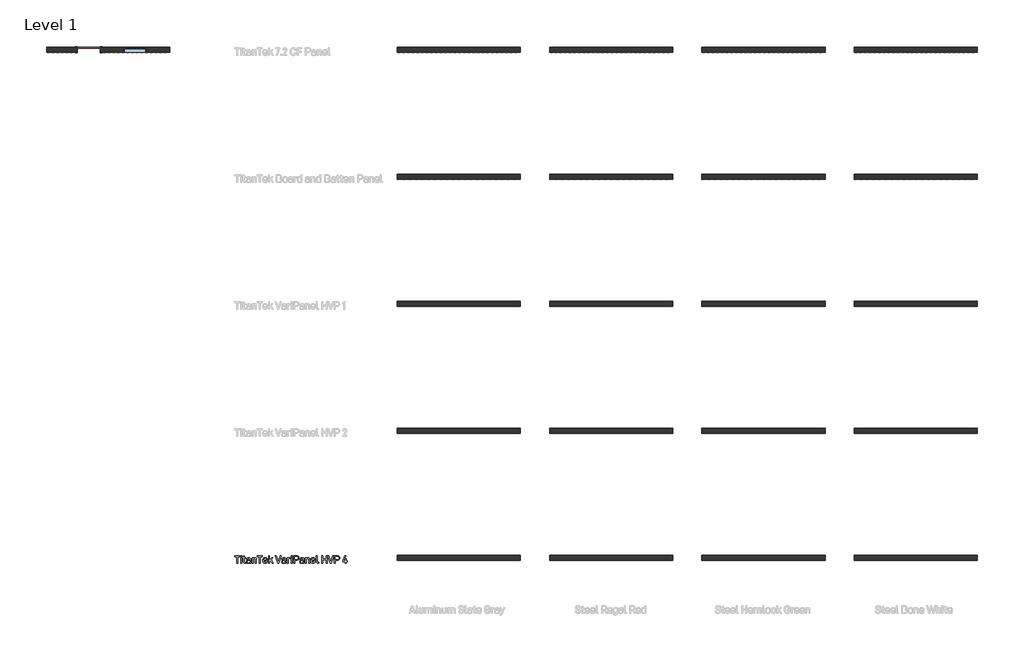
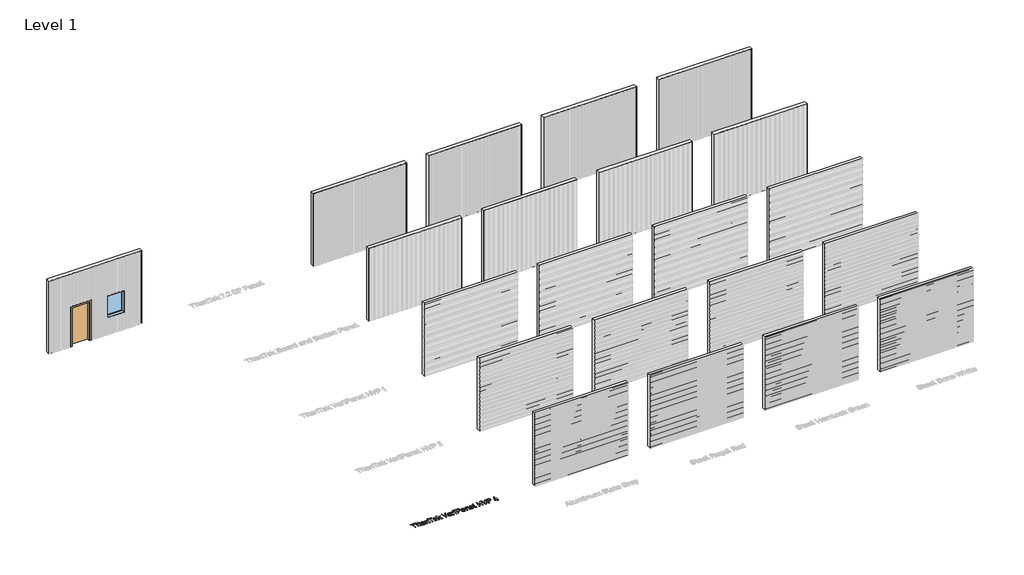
# One storey, part 1 of 9: 21 walls, 1 door, 1 proxy, 1 window.
"""IFC4 building model written with IfcOpenShell, lengths in millimetres."""

from ifc_helpers import new_model, si_unit, frame, origin, origin_with_axes, place, context, project, spatial, polyline, outline, extrude, transform, mapped, element, save
from components import m_single_flush_0915_x_2134mm_6a9e8738, m_fixed_0915_x_1220mm_488fb2fb

model = new_model("IFC4")

# Units and contexts
model_context = context("Model", 3, world=origin())
ifc_project = project(units=[si_unit("LENGTHUNIT", "METRE", prefix="MILLI")], contexts=[model_context])

# Site, building, storey
site = spatial("IfcSite", under=ifc_project)
building = spatial("IfcBuilding", under=site)
storey = spatial("IfcBuildingStorey", under=building, Name="Level 1", Elevation=0.0)

# Proxy
placement = place(None, origin())
element("IfcBuildingElementProxy", 1, Name="600mm Arial 2", ObjectType="600mm Arial 2", at=placement, inside=storey, context=model_context, shape_type="SweptSolid", body=[
    extrude(outline(polyline([(-8638.9924556, -17779.5871657), (-8638.9924556, -18047.0126498), (-8678.4439015, -18047.0126498), (-8678.4439015, -17779.5871657), (-8762.8787304, -17779.5871657), (-8762.8787304, -17742.6833224), (-8554.5576267, -17742.6833224), (-8554.5576267, -17779.5871657), (-8638.9924556, -17779.5871657)])), origin_with_axes(), (0.0, 0.0, 1.0), 5.0),
    extrude(outline(polyline([(-8487.1553408, -17746.9778525), (-8487.1553408, -17794.1448949), (-8526.6067867, -17794.1448949), (-8526.6067867, -17746.9778525), (-8487.1553408, -17746.9778525)])), origin_with_axes(), (0.0, 0.0, 1.0), 5.0),
    extrude(outline(polyline([(-8488.0288046, -17821.1494824), (-8488.0288046, -18047.0126498), (-8525.733323, -18047.0126498), (-8525.733323, -17821.1494824), (-8488.0288046, -17821.1494824)])), origin_with_axes(), (0.0, 0.0, 1.0), 5.0),
    extrude(outline(polyline([(-8372.294858, -17987.398749), (-8370.8208879, -17998.4808203), (-8366.3989777, -18006.3965855), (-8359.0291273, -18011.1460446), (-8348.7113368, -18012.7291977), (-8327.2386864, -18012.7291977), (-8327.2386864, -18047.0126498), (-8353.3698101, -18047.0126498), (-8377.1535001, -18043.0456686), (-8395.3688587, -18031.144725), (-8406.6692959, -18012.6018175), (-8410.4361083, -17988.7089446), (-8410.4361083, -17852.8853319), (-8444.2828285, -17852.8853319), (-8444.2828285, -17821.1494824), (-8410.4361083, -17821.1494824), (-8410.4361083, -17773.1089763), (-8372.294858, -17755.1301808), (-8372.294858, -17821.1494824), (-8323.3808881, -17821.1494824), (-8323.3808881, -17852.8853319), (-8372.294858, -17852.8853319), (-8372.294858, -17987.398749)])), origin_with_axes(), (0.0, 0.0, 1.0), 5.0),
    extrude(outline(polyline([(-8146.8684225, -17837.8908709), (-8137.2830677, -17848.6590411), (-8130.4363858, -17861.7473495), (-8124.9590402, -17894.8843804), (-8124.9590402, -18047.0126498), (-8162.2996154, -18047.0126498), (-8162.2996154, -18030.7079931), (-8180.7151427, -18043.1548515), (-8197.7476858, -18047.9589022), (-8217.9829293, -18049.5602524), (-8250.0281305, -18045.2839194), (-8274.1029751, -18032.4549206), (-8289.2248162, -18010.6729184), (-8294.2654299, -17981.4300801), (-8289.1338304, -17953.7885919), (-8273.7390318, -17932.5888988), (-8249.063681, -17919.3777597), (-8217.1094655, -17914.9740466), (-8162.7363472, -17914.9740466), (-8162.7363472, -17894.4476485), (-8165.6296959, -17875.558995), (-8174.3097419, -17861.8383353), (-8188.2305704, -17853.8133871), (-8207.7197302, -17851.1384044), (-8226.2262434, -17853.3948524), (-8239.819523, -17860.1641964), (-8248.1720201, -17870.5183813), (-8250.9561857, -17884.5483927), (-8250.9561857, -17890.1531184), (-8287.8600291, -17890.1531184), (-8287.8600291, -17883.7477176), (-8282.4008807, -17856.7067358), (-8266.0234354, -17835.7072115), (-8240.8203668, -17822.5506638), (-8208.1564621, -17818.1651479), (-8172.6719974, -17823.0965787), (-8158.5600987, -17829.2608671), (-8146.8684225, -17837.8908709)]), holes=[polyline([(-8174.6736851, -18005.4503331), (-8165.7206817, -17990.5468579), (-8162.7363472, -17968.9832216), (-8162.7363472, -17945.0357572), (-8212.8149354, -17945.0357572), (-8231.9538, -17947.2831067), (-8245.6244175, -17954.025155), (-8253.826788, -17965.2619021), (-8256.5609115, -17980.9933482), (-8253.8540837, -17996.9477094), (-8245.7336004, -18008.3436818), (-8232.1994616, -18015.1812652), (-8213.2516673, -18017.4604596), (-8190.104878, -18014.457928), (-8174.6736851, -18005.4503331)])]), origin_with_axes(), (0.0, 0.0, 1.0), 5.0),
    extrude(outline(polyline([(-8030.6977441, -17821.1494824), (-8030.6977441, -17839.5650097), (-8012.2822167, -17826.3174762), (-7995.1222935, -17820.5307789), (-7976.2518372, -17818.6018798), (-7943.9154813, -17824.0610282), (-7930.7907787, -17830.8849637), (-7919.6950595, -17840.4384735), (-7911.0650557, -17852.0209667), (-7904.9007673, -17865.8053165), (-7899.9693365, -17899.9795856), (-7899.9693365, -18047.0126498), (-7937.673855, -18047.0126498), (-7937.673855, -17904.2741157), (-7940.6763866, -17881.8916072), (-7949.6839815, -17866.1328654), (-7964.3781893, -17856.5247642), (-7983.567096, -17853.3220637), (-8002.7378056, -17856.5247642), (-8017.3774219, -17866.1328654), (-8027.0401146, -17882.546705), (-8030.2610122, -17904.2741157), (-8030.2610122, -18047.0126498), (-8067.9655306, -18047.0126498), (-8067.9655306, -17821.1494824), (-8030.6977441, -17821.1494824)])), origin_with_axes(), (0.0, 0.0, 1.0), 5.0),
    extrude(outline(polyline([(-7749.2240514, -17779.5871657), (-7749.2240514, -18047.0126498), (-7788.6754974, -18047.0126498), (-7788.6754974, -17779.5871657), (-7873.1103263, -17779.5871657), (-7873.1103263, -17742.6833224), (-7664.7892225, -17742.6833224), (-7664.7892225, -17779.5871657), (-7749.2240514, -17779.5871657)])), origin_with_axes(), (0.0, 0.0, 1.0), 5.0),
    extrude(outline(polyline([(-7608.5235994, -17952.7513537), (-7605.1025331, -17982.1670651), (-7594.8393341, -18001.1194087), (-7578.3527058, -18011.4099035), (-7556.2613519, -18014.8400684), (-7536.990558, -18012.2742686), (-7522.8513635, -18004.5768694), (-7514.1713175, -17992.8033059), (-7511.2779689, -17977.13555), (-7511.2779689, -17971.6036129), (-7474.3741256, -17971.6036129), (-7474.3741256, -17978.0090137), (-7480.0516399, -18007.1608663), (-7487.1485329, -18019.471246), (-7497.084183, -18030.2712613), (-7523.7976159, -18044.7380046), (-7558.3722226, -18049.5602524), (-7577.3222916, -18048.0612612), (-7594.2843206, -18043.5642877), (-7609.2583098, -18036.0693318), (-7622.2442591, -18025.5763936), (-7632.7371973, -18011.9762901), (-7640.2321532, -17995.1598383), (-7644.7291267, -17975.1270383), (-7646.2281179, -17951.8778899), (-7646.2281179, -17914.1733715), (-7644.7314014, -17891.4678633), (-7640.2412518, -17871.8285769), (-7632.7576691, -17855.2555121), (-7622.2806535, -17841.7486691), (-7609.4971476, -17831.4308786), (-7594.7301511, -17824.0610282), (-7577.979664, -17819.639118), (-7559.2456864, -17818.1651479), (-7540.8438069, -17819.639118), (-7524.2161506, -17824.0610282), (-7509.3627176, -17831.4308786), (-7496.2835079, -17841.7486691), (-7485.9657174, -17855.0917377), (-7478.595867, -17871.610211), (-7474.1739568, -17891.3040889), (-7472.6999867, -17914.1733715), (-7472.6999867, -17944.1622935), (-7608.5235994, -17944.1622935), (-7608.5235994, -17952.7513537)]), holes=[polyline([(-7595.2760659, -17866.5695973), (-7605.2117161, -17884.69397), (-7608.5235994, -17913.2999077), (-7510.4045051, -17913.7366396), (-7510.4045051, -17910.3155733), (-7513.6254027, -17883.0744226), (-7523.2880954, -17865.6961335), (-7538.9012599, -17856.4155812), (-7559.2456864, -17853.3220637), (-7579.60831, -17856.6339471), (-7595.2760659, -17866.5695973)])]), origin_with_axes(), (0.0, 0.0, 1.0), 5.0),
    extrude(outline(polyline([(-7387.391694, -17979.6831526), (-7387.391694, -18047.0126498), (-7425.0962125, -18047.0126498), (-7425.0962125, -17742.6833224), (-7387.391694, -17742.6833224), (-7387.391694, -17929.1678325), (-7299.0990669, -17821.1494824), (-7252.3687564, -17821.1494824), (-7326.5403863, -17908.1319139), (-7241.6688255, -18047.0126498), (-7287.5256722, -18047.0126498), (-7351.7980463, -17937.3201608), (-7387.391694, -17979.6831526)])), origin_with_axes(), (0.0, 0.0, 1.0), 5.0),
    extrude(outline(polyline([(-6964.5624516, -17742.6833224), (-6923.0001349, -17742.6833224), (-7022.4294248, -18047.0126498), (-7054.1652743, -18047.0126498), (-7153.1578324, -17742.6833224), (-7111.5955157, -17742.6833224), (-7037.8606177, -17977.13555), (-6964.5624516, -17742.6833224)])), origin_with_axes(), (0.0, 0.0, 1.0), 5.0),
    extrude(outline(polyline([(-6763.3018464, -17837.8908709), (-6753.7164916, -17848.6590411), (-6746.8698097, -17861.7473495), (-6741.3924641, -17894.8843804), (-6741.3924641, -18047.0126498), (-6778.7330393, -18047.0126498), (-6778.7330393, -18030.7079931), (-6797.1485666, -18043.1548515), (-6814.1811097, -18047.9589022), (-6834.4163532, -18049.5602524), (-6866.4615544, -18045.2839194), (-6890.536399, -18032.4549206), (-6905.6582401, -18010.6729184), (-6910.6988538, -17981.4300801), (-6905.5672543, -17953.7885919), (-6890.1724557, -17932.5888988), (-6865.4971049, -17919.3777597), (-6833.5428894, -17914.9740466), (-6779.1697712, -17914.9740466), (-6779.1697712, -17894.4476485), (-6782.0631198, -17875.558995), (-6790.7431658, -17861.8383353), (-6804.6639943, -17853.8133871), (-6824.1531542, -17851.1384044), (-6842.6596673, -17853.3948524), (-6856.2529469, -17860.1641964), (-6864.605444, -17870.5183813), (-6867.3896097, -17884.5483927), (-6867.3896097, -17890.1531184), (-6904.293453, -17890.1531184), (-6904.293453, -17883.7477176), (-6898.8343046, -17856.7067358), (-6882.4568593, -17835.7072115), (-6857.2537908, -17822.5506638), (-6824.589886, -17818.1651479), (-6789.1054213, -17823.0965787), (-6774.9935226, -17829.2608671), (-6763.3018464, -17837.8908709)]), holes=[polyline([(-6791.107109, -18005.4503331), (-6782.1541056, -17990.5468579), (-6779.1697712, -17968.9832216), (-6779.1697712, -17945.0357572), (-6829.2483594, -17945.0357572), (-6848.3872239, -17947.2831067), (-6862.0578414, -17954.025155), (-6870.2602119, -17965.2619021), (-6872.9943354, -17980.9933482), (-6870.2875076, -17996.9477094), (-6862.1670243, -18008.3436818), (-6848.6328855, -18015.1812652), (-6829.6850912, -18017.4604596), (-6806.5383019, -18014.457928), (-6791.107109, -18005.4503331)])]), origin_with_axes(), (0.0, 0.0, 1.0), 5.0),
    extrude(outline(polyline([(-6594.4321886, -17818.1651479), (-6574.2697337, -17820.2760186), (-6574.2697337, -17859.2907327), (-6600.8375894, -17853.686007), (-6619.1712295, -17857.2253549), (-6633.8472402, -17867.8433985), (-6643.4826371, -17884.2481396), (-6646.6944361, -17905.1475794), (-6646.6944361, -18047.0126498), (-6684.3989546, -18047.0126498), (-6684.3989546, -17821.1494824), (-6647.131168, -17821.1494824), (-6647.131168, -17840.8752053), (-6629.5891044, -17826.6814194), (-6613.4846166, -17820.2942158), (-6594.4321886, -17818.1651479)])), origin_with_axes(), (0.0, 0.0, 1.0), 5.0),
    extrude(outline(polyline([(-6497.9872331, -17746.9778525), (-6497.9872331, -17794.1448949), (-6537.438679, -17794.1448949), (-6537.438679, -17746.9778525), (-6497.9872331, -17746.9778525)])), origin_with_axes(), (0.0, 0.0, 1.0), 5.0),
    extrude(outline(polyline([(-6498.8606969, -17821.1494824), (-6498.8606969, -18047.0126498), (-6536.5652153, -18047.0126498), (-6536.5652153, -17821.1494824), (-6498.8606969, -17821.1494824)])), origin_with_axes(), (0.0, 0.0, 1.0), 5.0),
    extrude(outline(polyline([(-6253.6357497, -17766.7035755), (-6242.2033831, -17780.1603763), (-6234.0374069, -17796.073794), (-6229.1378212, -17814.4438284), (-6227.504626, -17835.2704796), (-6229.1651169, -17854.955259), (-6234.1465899, -17872.4472804), (-6242.4490448, -17887.7465438), (-6254.0724816, -17900.8530493), (-6268.1297888, -17911.3619101), (-6284.6073184, -17918.8682391), (-6303.5050706, -17923.3720366), (-6324.8230452, -17924.8733024), (-6395.5008201, -17924.8733024), (-6395.5008201, -18047.0126498), (-6435.3889979, -18047.0126498), (-6435.3889979, -17742.6833224), (-6324.8230452, -17742.6833224), (-6303.6415493, -17744.1845882), (-6284.7165014, -17748.6883857), (-6268.0479016, -17756.1947147), (-6253.6357497, -17766.7035755)]), holes=[polyline([(-6282.3872648, -17874.7219256), (-6271.141419, -17858.4172689), (-6267.3928038, -17835.2704796), (-6271.250602, -17810.6497202), (-6282.8239966, -17793.2714311), (-6301.8946218, -17783.0082321), (-6327.3706478, -17779.5871657), (-6395.5008201, -17779.5871657), (-6395.5008201, -17887.9694591), (-6327.3706478, -17887.9694591), (-6301.130341, -17884.6575757), (-6282.3872648, -17874.7219256)])]), origin_with_axes(), (0.0, 0.0, 1.0), 5.0),
    extrude(outline(polyline([(-6055.2139018, -17837.8908709), (-6045.628547, -17848.6590411), (-6038.781865, -17861.7473495), (-6033.3045194, -17894.8843804), (-6033.3045194, -18047.0126498), (-6070.6450946, -18047.0126498), (-6070.6450946, -18030.7079931), (-6089.060622, -18043.1548515), (-6106.093165, -18047.9589022), (-6126.3284085, -18049.5602524), (-6158.3736098, -18045.2839194), (-6182.4484543, -18032.4549206), (-6197.5702954, -18010.6729184), (-6202.6109091, -17981.4300801), (-6197.4793096, -17953.7885919), (-6182.0845111, -17932.5888988), (-6157.4091602, -17919.3777597), (-6125.4549448, -17914.9740466), (-6071.0818265, -17914.9740466), (-6071.0818265, -17894.4476485), (-6073.9751752, -17875.558995), (-6082.6552212, -17861.8383353), (-6096.5760496, -17853.8133871), (-6116.0652095, -17851.1384044), (-6134.5717226, -17853.3948524), (-6148.1650022, -17860.1641964), (-6156.5174993, -17870.5183813), (-6159.301665, -17884.5483927), (-6159.301665, -17890.1531184), (-6196.2055083, -17890.1531184), (-6196.2055083, -17883.7477176), (-6190.7463599, -17856.7067358), (-6174.3689146, -17835.7072115), (-6149.1658461, -17822.5506638), (-6116.5019414, -17818.1651479), (-6081.0174766, -17823.0965787), (-6066.905578, -17829.2608671), (-6055.2139018, -17837.8908709)]), holes=[polyline([(-6083.0191644, -18005.4503331), (-6074.066161, -17990.5468579), (-6071.0818265, -17968.9832216), (-6071.0818265, -17945.0357572), (-6121.1604147, -17945.0357572), (-6140.2992792, -17947.2831067), (-6153.9698967, -17954.025155), (-6162.1722672, -17965.2619021), (-6164.9063907, -17980.9933482), (-6162.199563, -17996.9477094), (-6154.0790797, -18008.3436818), (-6140.5449409, -18015.1812652), (-6121.5971466, -18017.4604596), (-6098.4503573, -18014.457928), (-6083.0191644, -18005.4503331)])]), origin_with_axes(), (0.0, 0.0, 1.0), 5.0),
    extrude(outline(polyline([(-5939.0432233, -17821.1494824), (-5939.0432233, -17839.5650097), (-5920.627696, -17826.3174762), (-5903.4677728, -17820.5307789), (-5884.5973164, -17818.6018798), (-5852.2609606, -17824.0610282), (-5839.1362579, -17830.8849637), (-5828.0405387, -17840.4384735), (-5819.410535, -17852.0209667), (-5813.2462465, -17865.8053165), (-5808.3148158, -17899.9795856), (-5808.3148158, -18047.0126498), (-5846.0193342, -18047.0126498), (-5846.0193342, -17904.2741157), (-5849.0218659, -17881.8916072), (-5858.0294607, -17866.1328654), (-5872.7236686, -17856.5247642), (-5891.9125753, -17853.3220637), (-5911.0832848, -17856.5247642), (-5925.7229012, -17866.1328654), (-5935.3855939, -17882.546705), (-5938.6064915, -17904.2741157), (-5938.6064915, -18047.0126498), (-5976.3110099, -18047.0126498), (-5976.3110099, -17821.1494824), (-5939.0432233, -17821.1494824)])), origin_with_axes(), (0.0, 0.0, 1.0), 5.0),
    extrude(outline(polyline([(-5721.8419048, -17952.7513537), (-5718.4208384, -17982.1670651), (-5708.1576394, -18001.1194087), (-5691.6710112, -18011.4099035), (-5669.5796572, -18014.8400684), (-5650.3088633, -18012.2742686), (-5636.1696689, -18004.5768694), (-5627.4896229, -17992.8033059), (-5624.5962742, -17977.13555), (-5624.5962742, -17971.6036129), (-5587.6924309, -17971.6036129), (-5587.6924309, -17978.0090137), (-5593.3699452, -18007.1608663), (-5600.4668382, -18019.471246), (-5610.4024883, -18030.2712613), (-5637.1159213, -18044.7380046), (-5671.6905279, -18049.5602524), (-5690.6405969, -18048.0612612), (-5707.602626, -18043.5642877), (-5722.5766152, -18036.0693318), (-5735.5625645, -18025.5763936), (-5746.0555027, -18011.9762901), (-5753.5504585, -17995.1598383), (-5758.047432, -17975.1270383), (-5759.5464232, -17951.8778899), (-5759.5464232, -17914.1733715), (-5758.0497067, -17891.4678633), (-5753.5595571, -17871.8285769), (-5746.0759745, -17855.2555121), (-5735.5989588, -17841.7486691), (-5722.8154529, -17831.4308786), (-5708.0484564, -17824.0610282), (-5691.2979694, -17819.639118), (-5672.5639917, -17818.1651479), (-5654.1621122, -17819.639118), (-5637.534456, -17824.0610282), (-5622.681023, -17831.4308786), (-5609.6018132, -17841.7486691), (-5599.2840227, -17855.0917377), (-5591.9141723, -17871.610211), (-5587.4922621, -17891.3040889), (-5586.018292, -17914.1733715), (-5586.018292, -17944.1622935), (-5721.8419048, -17944.1622935), (-5721.8419048, -17952.7513537)]), holes=[polyline([(-5708.5943713, -17866.5695973), (-5718.5300214, -17884.69397), (-5721.8419048, -17913.2999077), (-5623.7228105, -17913.7366396), (-5623.7228105, -17910.3155733), (-5626.943708, -17883.0744226), (-5636.6064007, -17865.6961335), (-5652.2195652, -17856.4155812), (-5672.5639917, -17853.3220637), (-5692.9266153, -17856.6339471), (-5708.5943713, -17866.5695973)])]), origin_with_axes(), (0.0, 0.0, 1.0), 5.0),
    extrude(outline(polyline([(-5523.4200568, -18031.144725), (-5534.6659025, -18011.637368), (-5538.4145178, -17985.7246101), (-5538.4145178, -17742.6833224), (-5500.7099994, -17742.6833224), (-5500.7099994, -17983.9776826), (-5499.3270151, -17997.3889906), (-5495.1780623, -18005.887065), (-5488.1903523, -18010.3635667), (-5477.5632101, -18011.8557339), (-5455.7266164, -18011.8557339), (-5455.7266164, -18047.0126498), (-5480.5475445, -18047.0126498), (-5505.4230642, -18043.0456686), (-5523.4200568, -18031.144725)])), origin_with_axes(), (0.0, 0.0, 1.0), 5.0),
    extrude(outline(polyline([(-5117.1138369, -18047.0126498), (-5156.9292261, -18047.0126498), (-5156.9292261, -17909.8788414), (-5286.7841699, -17909.8788414), (-5286.7841699, -18047.0126498), (-5326.6723477, -18047.0126498), (-5326.6723477, -17742.6833224), (-5286.7841699, -17742.6833224), (-5286.7841699, -17872.9749981), (-5156.9292261, -17872.9749981), (-5156.9292261, -17742.6833224), (-5117.1138369, -17742.6833224), (-5117.1138369, -18047.0126498)])), origin_with_axes(), (0.0, 0.0, 1.0), 5.0),
    extrude(outline(polyline([(-4900.8587707, -17742.6833224), (-4859.2964541, -17742.6833224), (-4958.725744, -18047.0126498), (-4990.4615935, -18047.0126498), (-5089.4541516, -17742.6833224), (-5047.8918349, -17742.6833224), (-4974.1569369, -17977.13555), (-4900.8587707, -17742.6833224)])), origin_with_axes(), (0.0, 0.0, 1.0), 5.0),
    extrude(outline(polyline([(-4651.1209276, -17766.7035755), (-4639.6885609, -17780.1603763), (-4631.5225848, -17796.073794), (-4626.6229991, -17814.4438284), (-4624.9898038, -17835.2704796), (-4626.6502948, -17854.955259), (-4631.6317677, -17872.4472804), (-4639.9342226, -17887.7465438), (-4651.5576595, -17900.8530493), (-4665.6149667, -17911.3619101), (-4682.0924963, -17918.8682391), (-4700.9902484, -17923.3720366), (-4722.308223, -17924.8733024), (-4792.9859979, -17924.8733024), (-4792.9859979, -18047.0126498), (-4832.8741757, -18047.0126498), (-4832.8741757, -17742.6833224), (-4722.308223, -17742.6833224), (-4701.1267271, -17744.1845882), (-4682.2016793, -17748.6883857), (-4665.5330794, -17756.1947147), (-4651.1209276, -17766.7035755)]), holes=[polyline([(-4679.8724426, -17874.7219256), (-4668.6265969, -17858.4172689), (-4664.8779816, -17835.2704796), (-4668.7357798, -17810.6497202), (-4680.3091745, -17793.2714311), (-4699.3797996, -17783.0082321), (-4724.8558256, -17779.5871657), (-4792.9859979, -17779.5871657), (-4792.9859979, -17887.9694591), (-4724.8558256, -17887.9694591), (-4698.6155189, -17884.6575757), (-4679.8724426, -17874.7219256)])]), origin_with_axes(), (0.0, 0.0, 1.0), 5.0),
    extrude(outline(polyline([(-4356.4724901, -17989.1456765), (-4356.4724901, -18047.0126498), (-4396.3606679, -18047.0126498), (-4396.3606679, -17989.1456765), (-4507.3633525, -17989.1456765), (-4507.3633525, -17955.7356881), (-4417.3965865, -17742.6833224), (-4376.6349449, -17742.6833224), (-4465.364304, -17952.3146218), (-4396.3606679, -17952.3146218), (-4396.3606679, -17871.7375911), (-4356.4724901, -17871.7375911), (-4356.4724901, -17952.3146218), (-4324.3726974, -17952.3146218), (-4324.3726974, -17989.1456765), (-4356.4724901, -17989.1456765)])), origin_with_axes(), (0.0, 0.0, 1.0), 5.0),
])

# Door
m_single_flush_0915_x_2134mm_shape = m_single_flush_0915_x_2134mm_6a9e8738(model_context)
element("IfcDoor", 2, ObjectType="M_Single-Flush : 0915 x 2134mm", at=placement, inside=storey, context=model_context, shape_type="MappedRepresentation", body=[
    mapped(m_single_flush_0915_x_2134mm_shape, transform((-14506.0272757, 2178.6095025, 0.0), x_axis=(1.0, 0.0, 0.0), y_axis=(0.0, 1.0, 0.0), z_axis=(0.0, 0.0, 1.0))),
])

# Walls
element("IfcWall", 3, ObjectType="Generic - 200mm", at=placement, inside=storey, context=model_context, shape_type="SweptSolid", body=[
    extrude(outline(polyline([(2489.4102183, 2078.6095025), (-2360.5897817, 2078.6095025), (-2360.5897817, 2278.6095025), (2489.4102183, 2278.6095025), (2489.4102183, 2078.6095025)])), origin_with_axes(), (0.0, 0.0, 1.0), 4000.0),
])
element("IfcWall", 4, ObjectType="Generic - 200mm", at=placement, inside=storey, context=model_context, shape_type="SweptSolid", body=[
    extrude(outline(polyline([(2489.4102183, -2921.3904975), (-2360.5897817, -2921.3904975), (-2360.5897817, -2721.3904975), (2489.4102183, -2721.3904975), (2489.4102183, -2921.3904975)])), origin_with_axes(), (0.0, 0.0, 1.0), 4000.0),
])
element("IfcWall", 5, ObjectType="Generic - 200mm", at=placement, inside=storey, context=model_context, shape_type="SweptSolid", body=[
    extrude(outline(polyline([(2489.4102183, -7921.3904975), (-2360.5897817, -7921.3904975), (-2360.5897817, -7721.3904975), (2489.4102183, -7721.3904975), (2489.4102183, -7921.3904975)])), origin_with_axes(), (0.0, 0.0, 1.0), 4000.0),
])
element("IfcWall", 6, ObjectType="Generic - 200mm", at=placement, inside=storey, context=model_context, shape_type="SweptSolid", body=[
    extrude(outline(polyline([(2134.0, -14048.5272757), (0.0, -14048.5272757), (0.0, -11313.5272757), (4000.0, -11313.5272757), (4000.0, -16163.5272757), (0.0, -16163.5272757), (0.0, -14963.5272757), (2134.0, -14963.5272757), (2134.0, -14048.5272757)]), holes=[polyline([(915.0, -13138.5272757), (2135.0, -13138.5272757), (2135.0, -12223.5272757), (915.0, -12223.5272757), (915.0, -13138.5272757)])]), frame((0.0, 2078.6095025, 0.0), z_axis=(0.0, 1.0, 0.0), x_axis=(0.0, 0.0, 1.0)), (0.0, 0.0, 1.0), 200.0),
])
element("IfcWall", 7, ObjectType="Generic - 200mm", at=placement, inside=storey, context=model_context, shape_type="SweptSolid", body=[
    extrude(outline(polyline([(2489.4102183, -12921.3904975), (-2360.5897817, -12921.3904975), (-2360.5897817, -12721.3904975), (2489.4102183, -12721.3904975), (2489.4102183, -12921.3904975)])), origin_with_axes(), (0.0, 0.0, 1.0), 4000.0),
])
element("IfcWall", 8, ObjectType="Generic - 200mm", at=placement, inside=storey, context=model_context, shape_type="SweptSolid", body=[
    extrude(outline(polyline([(2489.4102183, -17921.3904975), (-2360.5897817, -17921.3904975), (-2360.5897817, -17721.3904975), (2489.4102183, -17721.3904975), (2489.4102183, -17921.3904975)])), origin_with_axes(), (0.0, 0.0, 1.0), 4000.0),
])
element("IfcWall", 9, ObjectType="Generic - 200mm", at=placement, inside=storey, context=model_context, shape_type="SweptSolid", body=[
    extrude(outline(polyline([(8489.4102183, 2078.6095025), (3639.4102183, 2078.6095025), (3639.4102183, 2278.6095025), (8489.4102183, 2278.6095025), (8489.4102183, 2078.6095025)])), origin_with_axes(), (0.0, 0.0, 1.0), 4000.0),
])
element("IfcWall", 10, ObjectType="Generic - 200mm", at=placement, inside=storey, context=model_context, shape_type="SweptSolid", body=[
    extrude(outline(polyline([(8489.4102183, -2921.3904975), (3639.4102183, -2921.3904975), (3639.4102183, -2721.3904975), (8489.4102183, -2721.3904975), (8489.4102183, -2921.3904975)])), origin_with_axes(), (0.0, 0.0, 1.0), 4000.0),
])
element("IfcWall", 11, ObjectType="Generic - 200mm", at=placement, inside=storey, context=model_context, shape_type="SweptSolid", body=[
    extrude(outline(polyline([(8489.4102183, -7921.3904975), (3639.4102183, -7921.3904975), (3639.4102183, -7721.3904975), (8489.4102183, -7721.3904975), (8489.4102183, -7921.3904975)])), origin_with_axes(), (0.0, 0.0, 1.0), 4000.0),
])
element("IfcWall", 12, ObjectType="Generic - 200mm", at=placement, inside=storey, context=model_context, shape_type="SweptSolid", body=[
    extrude(outline(polyline([(8489.4102183, -12921.3904975), (3639.4102183, -12921.3904975), (3639.4102183, -12721.3904975), (8489.4102183, -12721.3904975), (8489.4102183, -12921.3904975)])), origin_with_axes(), (0.0, 0.0, 1.0), 4000.0),
])
element("IfcWall", 13, ObjectType="Generic - 200mm", at=placement, inside=storey, context=model_context, shape_type="SweptSolid", body=[
    extrude(outline(polyline([(8489.4102183, -17921.3904975), (3639.4102183, -17921.3904975), (3639.4102183, -17721.3904975), (8489.4102183, -17721.3904975), (8489.4102183, -17921.3904975)])), origin_with_axes(), (0.0, 0.0, 1.0), 4000.0),
])
element("IfcWall", 14, ObjectType="Generic - 200mm", at=placement, inside=storey, context=model_context, shape_type="SweptSolid", body=[
    extrude(outline(polyline([(14489.4102183, 2078.6095025), (9639.4102183, 2078.6095025), (9639.4102183, 2278.6095025), (14489.4102183, 2278.6095025), (14489.4102183, 2078.6095025)])), origin_with_axes(), (0.0, 0.0, 1.0), 4000.0),
])
element("IfcWall", 15, ObjectType="Generic - 200mm", at=placement, inside=storey, context=model_context, shape_type="SweptSolid", body=[
    extrude(outline(polyline([(14489.4102183, -2921.3904975), (9639.4102183, -2921.3904975), (9639.4102183, -2721.3904975), (14489.4102183, -2721.3904975), (14489.4102183, -2921.3904975)])), origin_with_axes(), (0.0, 0.0, 1.0), 4000.0),
])
element("IfcWall", 16, ObjectType="Generic - 200mm", at=placement, inside=storey, context=model_context, shape_type="SweptSolid", body=[
    extrude(outline(polyline([(14489.4102183, -7921.3904975), (9639.4102183, -7921.3904975), (9639.4102183, -7721.3904975), (14489.4102183, -7721.3904975), (14489.4102183, -7921.3904975)])), origin_with_axes(), (0.0, 0.0, 1.0), 4000.0),
])
element("IfcWall", 17, ObjectType="Generic - 200mm", at=placement, inside=storey, context=model_context, shape_type="SweptSolid", body=[
    extrude(outline(polyline([(14489.4102183, -12921.3904975), (9639.4102183, -12921.3904975), (9639.4102183, -12721.3904975), (14489.4102183, -12721.3904975), (14489.4102183, -12921.3904975)])), origin_with_axes(), (0.0, 0.0, 1.0), 4000.0),
])
element("IfcWall", 18, ObjectType="Generic - 200mm", at=placement, inside=storey, context=model_context, shape_type="SweptSolid", body=[
    extrude(outline(polyline([(14489.4102183, -17921.3904975), (9639.4102183, -17921.3904975), (9639.4102183, -17721.3904975), (14489.4102183, -17721.3904975), (14489.4102183, -17921.3904975)])), origin_with_axes(), (0.0, 0.0, 1.0), 4000.0),
])
element("IfcWall", 19, ObjectType="Generic - 200mm", at=placement, inside=storey, context=model_context, shape_type="SweptSolid", body=[
    extrude(outline(polyline([(20489.4102183, 2078.6095025), (15639.4102183, 2078.6095025), (15639.4102183, 2278.6095025), (20489.4102183, 2278.6095025), (20489.4102183, 2078.6095025)])), origin_with_axes(), (0.0, 0.0, 1.0), 4000.0),
])
element("IfcWall", 20, ObjectType="Generic - 200mm", at=placement, inside=storey, context=model_context, shape_type="SweptSolid", body=[
    extrude(outline(polyline([(20489.4102183, -2921.3904975), (15639.4102183, -2921.3904975), (15639.4102183, -2721.3904975), (20489.4102183, -2721.3904975), (20489.4102183, -2921.3904975)])), origin_with_axes(), (0.0, 0.0, 1.0), 4000.0),
])
element("IfcWall", 21, ObjectType="Generic - 200mm", at=placement, inside=storey, context=model_context, shape_type="SweptSolid", body=[
    extrude(outline(polyline([(20489.4102183, -7921.3904975), (15639.4102183, -7921.3904975), (15639.4102183, -7721.3904975), (20489.4102183, -7721.3904975), (20489.4102183, -7921.3904975)])), origin_with_axes(), (0.0, 0.0, 1.0), 4000.0),
])
element("IfcWall", 22, ObjectType="Generic - 200mm", at=placement, inside=storey, context=model_context, shape_type="SweptSolid", body=[
    extrude(outline(polyline([(20489.4102183, -12921.3904975), (15639.4102183, -12921.3904975), (15639.4102183, -12721.3904975), (20489.4102183, -12721.3904975), (20489.4102183, -12921.3904975)])), origin_with_axes(), (0.0, 0.0, 1.0), 4000.0),
])
element("IfcWall", 23, ObjectType="Generic - 200mm", at=placement, inside=storey, context=model_context, shape_type="SweptSolid", body=[
    extrude(outline(polyline([(20489.4102183, -17921.3904975), (15639.4102183, -17921.3904975), (15639.4102183, -17721.3904975), (20489.4102183, -17721.3904975), (20489.4102183, -17921.3904975)])), origin_with_axes(), (0.0, 0.0, 1.0), 4000.0),
])

# Window
m_fixed_0915_x_1220mm_shape = m_fixed_0915_x_1220mm_488fb2fb(model_context)
element("IfcWindow", 24, ObjectType="M_Fixed : 0915 x 1220mm", at=placement, inside=storey, context=model_context, shape_type="MappedRepresentation", body=[
    mapped(m_fixed_0915_x_1220mm_shape, transform((-12681.0272757, 2165.6095025, 0.0), x_axis=(1.0, 0.0, 0.0), y_axis=(0.0, 1.0, 0.0), z_axis=(0.0, 0.0, 1.0))),
])

save(model, "model.ifc")
